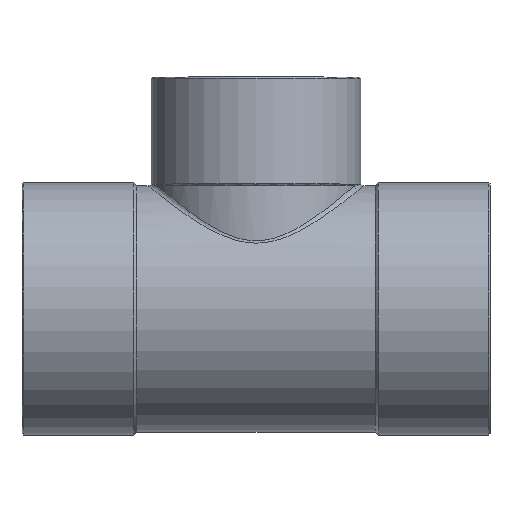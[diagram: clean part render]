
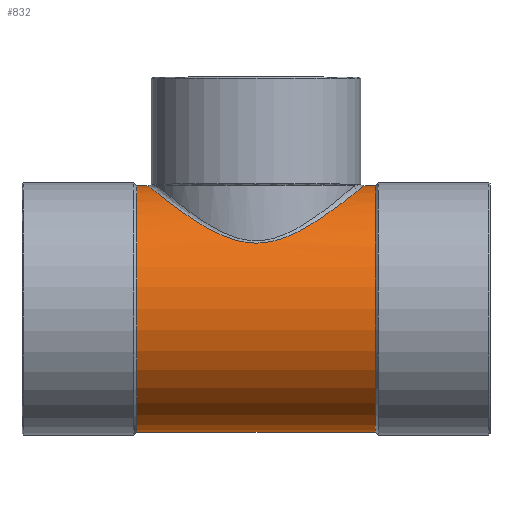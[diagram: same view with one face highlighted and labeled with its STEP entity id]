
A CAD part, top view. The second image highlights one B-rep face of the part: STEP entity #832.
In plain terms, the highlighted cylindrical face has radius 55.25 mm (diameter 110.5 mm), a partial arc.
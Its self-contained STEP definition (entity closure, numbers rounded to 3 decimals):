
#133=CARTESIAN_POINT('',(53.614,55.25,0.0));
#134=VERTEX_POINT('',#133);
#143=CARTESIAN_POINT('',(53.614,-55.25,0.));
#144=VERTEX_POINT('',#143);
#145=CARTESIAN_POINT('',(53.614,0.0,0.0));
#146=DIRECTION('',(1.0,0.0,0.0));
#147=DIRECTION('',(0.0,1.0,0.0));
#148=AXIS2_PLACEMENT_3D('',#145,#146,#147);
#149=CIRCLE('',#148,55.25);
#150=EDGE_CURVE('',#134,#144,#149,.T.);
#177=CARTESIAN_POINT('',(-53.614,55.25,0.0));
#178=VERTEX_POINT('',#177);
#194=CARTESIAN_POINT('',(-53.614,-55.25,0.));
#195=VERTEX_POINT('',#194);
#202=CARTESIAN_POINT('',(-53.614,0.0,0.0));
#203=DIRECTION('',(1.0,0.0,0.0));
#204=DIRECTION('',(0.0,1.0,0.0));
#205=AXIS2_PLACEMENT_3D('',#202,#203,#204);
#206=CIRCLE('',#205,55.25);
#207=EDGE_CURVE('',#178,#195,#206,.T.);
#778=CARTESIAN_POINT('',(26.807,0.0,0.0));
#779=DIRECTION('',(1.0,0.0,0.0));
#780=DIRECTION('',(0.0,1.0,0.0));
#781=AXIS2_PLACEMENT_3D('',#778,#779,#780);
#782=CYLINDRICAL_SURFACE('',#781,55.25);
#783=CARTESIAN_POINT('',(-48.45,55.25,0.));
#784=VERTEX_POINT('',#783);
#785=CARTESIAN_POINT('',(-53.614,55.25,0.0));
#786=DIRECTION('',(1.0,0.0,0.0));
#787=VECTOR('',#786,5.164);
#788=LINE('',#785,#787);
#789=EDGE_CURVE('',#178,#784,#788,.T.);
#790=ORIENTED_EDGE('',*,*,#789,.F.);
#791=ORIENTED_EDGE('',*,*,#207,.T.);
#792=CARTESIAN_POINT('',(53.614,-55.25,0.));
#793=DIRECTION('',(-1.0,0.0,0.0));
#794=VECTOR('',#793,107.229);
#795=LINE('',#792,#794);
#796=EDGE_CURVE('',#144,#195,#795,.T.);
#797=ORIENTED_EDGE('',*,*,#796,.F.);
#798=ORIENTED_EDGE('',*,*,#150,.F.);
#799=CARTESIAN_POINT('',(48.45,55.25,0.));
#800=VERTEX_POINT('',#799);
#801=CARTESIAN_POINT('',(48.45,55.25,0.));
#802=DIRECTION('',(1.0,0.0,0.0));
#803=VECTOR('',#802,5.164);
#804=LINE('',#801,#803);
#805=EDGE_CURVE('',#800,#134,#804,.T.);
#806=ORIENTED_EDGE('',*,*,#805,.F.);
#807=CARTESIAN_POINT('',(-48.45,55.25,0.));
#808=CARTESIAN_POINT('',(-48.45,55.25,0.538));
#809=CARTESIAN_POINT('',(-48.44,55.242,1.079));
#810=CARTESIAN_POINT('',(-48.054,54.927,11.842));
#811=CARTESIAN_POINT('',(-44.032,51.569,21.583));
#812=CARTESIAN_POINT('',(-33.616,43.719,34.403));
#813=CARTESIAN_POINT('',(-28.,39.63,38.789));
#814=CARTESIAN_POINT('',(-15.088,32.442,44.972));
#815=CARTESIAN_POINT('',(-7.382,29.264,46.864));
#816=CARTESIAN_POINT('',(6.361,29.565,46.675));
#817=CARTESIAN_POINT('',(11.876,31.317,45.605));
#818=CARTESIAN_POINT('',(21.589,35.826,42.156));
#819=CARTESIAN_POINT('',(25.994,38.579,39.751));
#820=CARTESIAN_POINT('',(35.931,45.295,32.221));
#821=CARTESIAN_POINT('',(40.938,49.232,26.249));
#822=CARTESIAN_POINT('',(46.777,53.873,13.544));
#823=CARTESIAN_POINT('',(48.266,55.1,7.432));
#824=CARTESIAN_POINT('',(48.445,55.246,0.81));
#825=CARTESIAN_POINT('',(48.45,55.25,0.405));
#826=CARTESIAN_POINT('',(48.45,55.25,0.));
#827=B_SPLINE_CURVE_WITH_KNOTS('',3,(#807,#808,#809,#810,#811,#812,#813,#814,#815,#816,#817,#818,#819,#820,#821,#822,#823,#824,#825,#826),.UNSPECIFIED.,.F.,.U.,(4,2,2,2,2,2,2,2,2,4),(7.602,7.759,10.732,13.003,15.267,16.857,18.447,20.879,22.686,22.804),.UNSPECIFIED.);
#828=EDGE_CURVE('',#784,#800,#827,.T.);
#829=ORIENTED_EDGE('',*,*,#828,.F.);
#830=EDGE_LOOP('',(#790,#791,#797,#798,#806,#829));
#831=FACE_OUTER_BOUND('',#830,.T.);
#832=ADVANCED_FACE('',(#831),#782,.T.);
